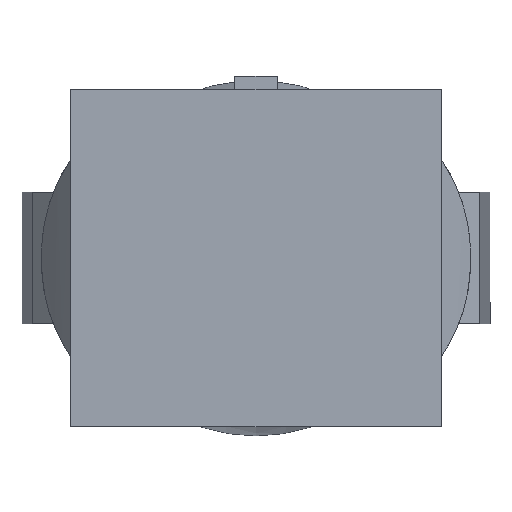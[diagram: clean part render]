
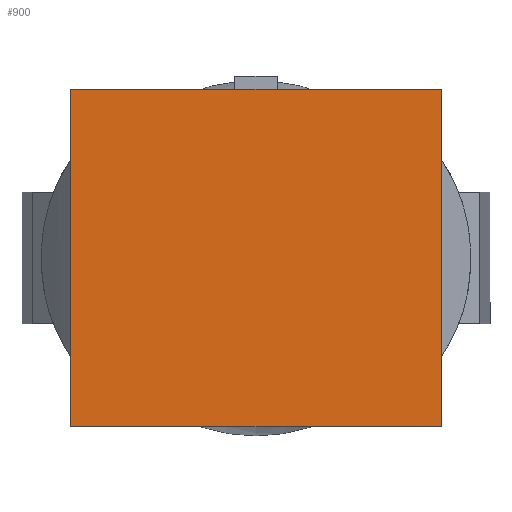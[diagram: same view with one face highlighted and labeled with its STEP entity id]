
A CAD part, front view. The second image highlights one B-rep face of the part: STEP entity #900.
In plain terms, the highlighted planar face has unit normal (0, -1, 0).
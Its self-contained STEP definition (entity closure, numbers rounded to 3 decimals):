
#74=PLANE('',#1078);
#143=FACE_OUTER_BOUND('',#200,.T.);
#200=EDGE_LOOP('',(#785,#786,#787,#788));
#278=LINE('',#1767,#354);
#282=LINE('',#1821,#358);
#283=LINE('',#1823,#359);
#284=LINE('',#1824,#360);
#354=VECTOR('',#1290,10.);
#358=VECTOR('',#1296,10.);
#359=VECTOR('',#1297,10.);
#360=VECTOR('',#1298,10.);
#450=VERTEX_POINT('',#1765);
#451=VERTEX_POINT('',#1766);
#458=VERTEX_POINT('',#1820);
#459=VERTEX_POINT('',#1822);
#564=EDGE_CURVE('',#450,#451,#278,.T.);
#572=EDGE_CURVE('',#458,#451,#282,.T.);
#573=EDGE_CURVE('',#459,#458,#283,.T.);
#574=EDGE_CURVE('',#450,#459,#284,.T.);
#785=ORIENTED_EDGE('',*,*,#564,.T.);
#786=ORIENTED_EDGE('',*,*,#572,.F.);
#787=ORIENTED_EDGE('',*,*,#573,.F.);
#788=ORIENTED_EDGE('',*,*,#574,.F.);
#900=ADVANCED_FACE('',(#143),#74,.T.);
#1078=AXIS2_PLACEMENT_3D('',#1819,#1294,#1295);
#1290=DIRECTION('',(0.,0.,1.));
#1294=DIRECTION('center_axis',(0.,-1.,0.));
#1295=DIRECTION('ref_axis',(1.,0.,0.));
#1296=DIRECTION('',(1.,0.,0.));
#1297=DIRECTION('',(0.,0.,1.));
#1298=DIRECTION('',(-1.,0.,0.));
#1765=CARTESIAN_POINT('',(155.311,-2.5,-141.325));
#1766=CARTESIAN_POINT('',(155.311,-2.5,141.325));
#1767=CARTESIAN_POINT('',(155.311,-2.5,0.));
#1819=CARTESIAN_POINT('Origin',(-155.311,-2.5,0.));
#1820=CARTESIAN_POINT('',(-155.311,-2.5,141.325));
#1821=CARTESIAN_POINT('',(0.,-2.5,141.325));
#1822=CARTESIAN_POINT('',(-155.311,-2.5,-141.325));
#1823=CARTESIAN_POINT('',(-155.311,-2.5,0.));
#1824=CARTESIAN_POINT('',(0.,-2.5,-141.325));
